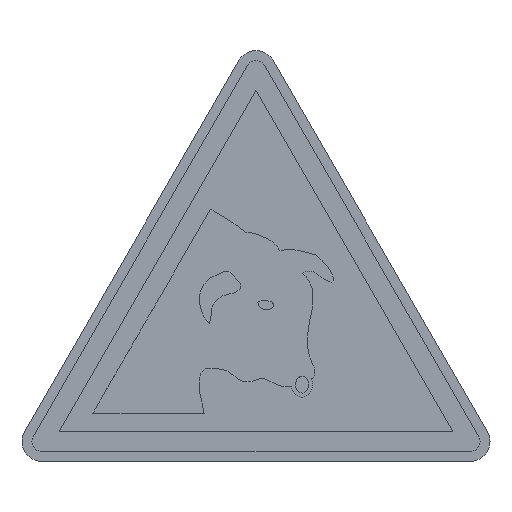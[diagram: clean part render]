
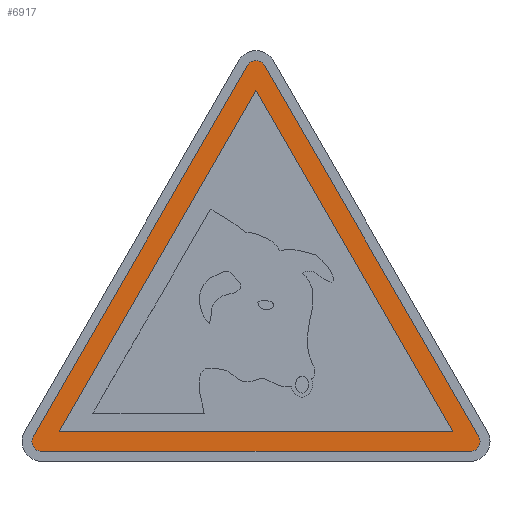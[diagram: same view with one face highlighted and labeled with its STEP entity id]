
A CAD part, top view. The second image highlights one B-rep face of the part: STEP entity #6917.
In plain terms, the highlighted planar face has unit normal (0, 0, 1).
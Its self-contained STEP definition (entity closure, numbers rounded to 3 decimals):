
#138 = EDGE_LOOP ( 'NONE', ( #3776, #3466, #6731 ) ) ;
#165 = DIRECTION ( 'NONE',  ( 1., 0., 0. ) ) ;
#216 = CARTESIAN_POINT ( 'NONE',  ( 22.402, 2.5, 0.22 ) ) ;
#329 = VECTOR ( 'NONE', #3237, 1000. ) ;
#387 = EDGE_CURVE ( 'NONE', #2894, #2409, #6368, .T. ) ;
#422 = DIRECTION ( 'NONE',  ( 1., 0., 0. ) ) ;
#443 = EDGE_CURVE ( 'NONE', #2252, #5564, #6563, .T. ) ;
#550 = DIRECTION ( 'NONE',  ( 0., 0., 1. ) ) ;
#587 = VERTEX_POINT ( 'NONE', #6761 ) ;
#588 = CIRCLE ( 'NONE', #1462, 1. ) ;
#621 = AXIS2_PLACEMENT_3D ( 'NONE', #4166, #4197, #422 ) ;
#662 = CARTESIAN_POINT ( 'NONE',  ( 0., 37.301, 0.22 ) ) ;
#675 = CARTESIAN_POINT ( 'NONE',  ( 19.804, 3., 0.22 ) ) ;
#764 = CARTESIAN_POINT ( 'NONE',  ( 22.402, 2.5, 0.22 ) ) ;
#914 = CARTESIAN_POINT ( 'NONE',  ( -22.402, 2.5, 0.22 ) ) ;
#1226 = CARTESIAN_POINT ( 'NONE',  ( -0.866, 39.801, 0.22 ) ) ;
#1282 = VERTEX_POINT ( 'NONE', #764 ) ;
#1369 = EDGE_CURVE ( 'NONE', #1685, #2252, #2711, .T. ) ;
#1372 = EDGE_CURVE ( 'NONE', #587, #1282, #588, .T. ) ;
#1413 = EDGE_CURVE ( 'NONE', #2409, #6009, #5499, .T. ) ;
#1418 = ORIENTED_EDGE ( 'NONE', *, *, #6154, .T. ) ;
#1462 = AXIS2_PLACEMENT_3D ( 'NONE', #3261, #550, #4885 ) ;
#1550 = VECTOR ( 'NONE', #2264, 1000. ) ;
#1572 = EDGE_CURVE ( 'NONE', #1282, #1685, #2357, .T. ) ;
#1592 = FACE_BOUND ( 'NONE', #138, .T. ) ;
#1650 = CARTESIAN_POINT ( 'NONE',  ( -21.536, 1., 0.22 ) ) ;
#1685 = VERTEX_POINT ( 'NONE', #3924 ) ;
#1872 = CARTESIAN_POINT ( 'NONE',  ( -19.804, 3., 0.22 ) ) ;
#1945 = CIRCLE ( 'NONE', #3966, 1. ) ;
#2195 = DIRECTION ( 'NONE',  ( 0., 0., 1. ) ) ;
#2252 = VERTEX_POINT ( 'NONE', #5629 ) ;
#2264 = DIRECTION ( 'NONE',  ( -0.5, 0.866, 0. ) ) ;
#2357 = LINE ( 'NONE', #216, #3932 ) ;
#2409 = VERTEX_POINT ( 'NONE', #5911 ) ;
#2620 = FACE_OUTER_BOUND ( 'NONE', #4986, .T. ) ;
#2655 = DIRECTION ( 'NONE',  ( 0., 0., 1. ) ) ;
#2690 = VERTEX_POINT ( 'NONE', #4960 ) ;
#2711 = CIRCLE ( 'NONE', #3492, 1. ) ;
#2729 = DIRECTION ( 'NONE',  ( -0.5, -0.866, 0. ) ) ;
#2783 = DIRECTION ( 'NONE',  ( 1., 0., 0. ) ) ;
#2811 = LINE ( 'NONE', #4974, #6979 ) ;
#2894 = VERTEX_POINT ( 'NONE', #4793 ) ;
#3237 = DIRECTION ( 'NONE',  ( -0.5, -0.866, 0. ) ) ;
#3261 = CARTESIAN_POINT ( 'NONE',  ( 21.536, 2., 0.22 ) ) ;
#3338 = DIRECTION ( 'NONE',  ( 1., 0., 0. ) ) ;
#3466 = ORIENTED_EDGE ( 'NONE', *, *, #1413, .F. ) ;
#3492 = AXIS2_PLACEMENT_3D ( 'NONE', #5345, #2655, #4377 ) ;
#3558 = EDGE_CURVE ( 'NONE', #5564, #2690, #1945, .T. ) ;
#3776 = ORIENTED_EDGE ( 'NONE', *, *, #5081, .F. ) ;
#3924 = CARTESIAN_POINT ( 'NONE',  ( 0.866, 39.801, 0.22 ) ) ;
#3932 = VECTOR ( 'NONE', #5556, 1000. ) ;
#3966 = AXIS2_PLACEMENT_3D ( 'NONE', #4847, #2195, #3338 ) ;
#4166 = CARTESIAN_POINT ( 'NONE',  ( 0., 39.301, 0.22 ) ) ;
#4197 = DIRECTION ( 'NONE',  ( 0., 0., 1. ) ) ;
#4377 = DIRECTION ( 'NONE',  ( 1., 0., 0. ) ) ;
#4502 = VECTOR ( 'NONE', #2729, 1000. ) ;
#4530 = VECTOR ( 'NONE', #2783, 1000. ) ;
#4775 = PLANE ( 'NONE',  #621 ) ;
#4793 = CARTESIAN_POINT ( 'NONE',  ( 19.804, 3., 0.22 ) ) ;
#4840 = ORIENTED_EDGE ( 'NONE', *, *, #443, .T. ) ;
#4847 = CARTESIAN_POINT ( 'NONE',  ( -21.536, 2., 0.22 ) ) ;
#4885 = DIRECTION ( 'NONE',  ( 1., 0., 0. ) ) ;
#4960 = CARTESIAN_POINT ( 'NONE',  ( -21.536, 1., 0.22 ) ) ;
#4974 = CARTESIAN_POINT ( 'NONE',  ( -19.804, 3., 0.22 ) ) ;
#4986 = EDGE_LOOP ( 'NONE', ( #5167, #4840, #6579, #1418, #6477, #6546 ) ) ;
#5081 = EDGE_CURVE ( 'NONE', #6009, #2894, #2811, .T. ) ;
#5167 = ORIENTED_EDGE ( 'NONE', *, *, #1369, .T. ) ;
#5345 = CARTESIAN_POINT ( 'NONE',  ( 0., 39.301, 0.22 ) ) ;
#5499 = LINE ( 'NONE', #662, #4502 ) ;
#5556 = DIRECTION ( 'NONE',  ( -0.5, 0.866, 0. ) ) ;
#5564 = VERTEX_POINT ( 'NONE', #914 ) ;
#5629 = CARTESIAN_POINT ( 'NONE',  ( -0.866, 39.801, 0.22 ) ) ;
#5911 = CARTESIAN_POINT ( 'NONE',  ( 0., 37.301, 0.22 ) ) ;
#6009 = VERTEX_POINT ( 'NONE', #1872 ) ;
#6154 = EDGE_CURVE ( 'NONE', #2690, #587, #6528, .T. ) ;
#6368 = LINE ( 'NONE', #675, #1550 ) ;
#6477 = ORIENTED_EDGE ( 'NONE', *, *, #1372, .T. ) ;
#6528 = LINE ( 'NONE', #1650, #4530 ) ;
#6546 = ORIENTED_EDGE ( 'NONE', *, *, #1572, .T. ) ;
#6563 = LINE ( 'NONE', #1226, #329 ) ;
#6579 = ORIENTED_EDGE ( 'NONE', *, *, #3558, .T. ) ;
#6731 = ORIENTED_EDGE ( 'NONE', *, *, #387, .F. ) ;
#6761 = CARTESIAN_POINT ( 'NONE',  ( 21.536, 1., 0.22 ) ) ;
#6917 = ADVANCED_FACE ( 'NONE', ( #2620, #1592 ), #4775, .T. ) ;
#6979 = VECTOR ( 'NONE', #165, 1000. ) ;
